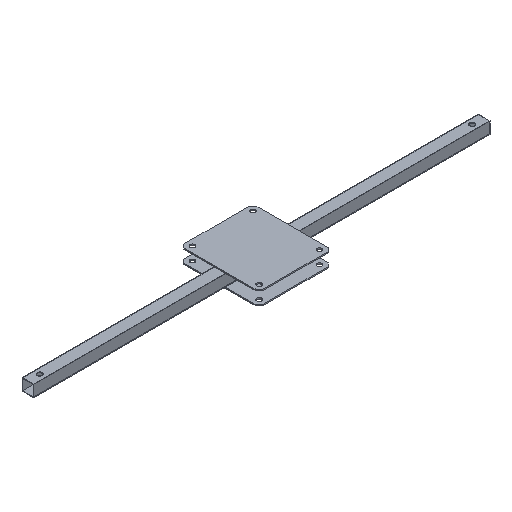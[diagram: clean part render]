
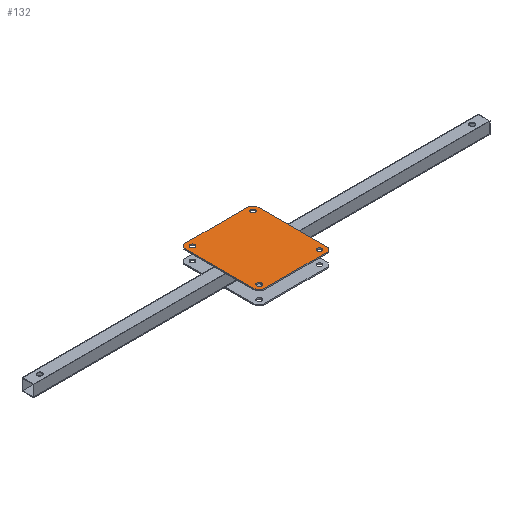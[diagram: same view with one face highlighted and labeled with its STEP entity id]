
A CAD part, isometric view. The second image highlights one B-rep face of the part: STEP entity #132.
In plain terms, the highlighted planar face has unit normal (0, 0, 1).
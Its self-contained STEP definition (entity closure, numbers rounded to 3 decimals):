
#80=CIRCLE('',#857,6.);
#81=CIRCLE('',#858,6.);
#82=CIRCLE('',#859,6.);
#83=CIRCLE('',#860,6.);
#132=ADVANCED_FACE('',(#212,#213,#214,#215,#216),#170,.T.);
#170=PLANE('',#861);
#212=FACE_BOUND('',#278,.T.);
#213=FACE_BOUND('',#279,.T.);
#214=FACE_BOUND('',#280,.T.);
#215=FACE_BOUND('',#281,.T.);
#216=FACE_BOUND('',#282,.T.);
#278=EDGE_LOOP('',(#400));
#279=EDGE_LOOP('',(#401,#402,#403,#404,#405,#406,#407,#408));
#280=EDGE_LOOP('',(#409));
#281=EDGE_LOOP('',(#410));
#282=EDGE_LOOP('',(#411));
#400=ORIENTED_EDGE('',*,*,#632,.F.);
#401=ORIENTED_EDGE('',*,*,#626,.T.);
#402=ORIENTED_EDGE('',*,*,#633,.T.);
#403=ORIENTED_EDGE('',*,*,#628,.T.);
#404=ORIENTED_EDGE('',*,*,#634,.T.);
#405=ORIENTED_EDGE('',*,*,#635,.T.);
#406=ORIENTED_EDGE('',*,*,#636,.T.);
#407=ORIENTED_EDGE('',*,*,#637,.T.);
#408=ORIENTED_EDGE('',*,*,#638,.T.);
#409=ORIENTED_EDGE('',*,*,#639,.F.);
#410=ORIENTED_EDGE('',*,*,#640,.F.);
#411=ORIENTED_EDGE('',*,*,#641,.F.);
#546=VERTEX_POINT('',#1180);
#547=VERTEX_POINT('',#1182);
#548=VERTEX_POINT('',#1186);
#549=VERTEX_POINT('',#1187);
#552=VERTEX_POINT('',#1195);
#553=VERTEX_POINT('',#1198);
#554=VERTEX_POINT('',#1200);
#555=VERTEX_POINT('',#1202);
#556=VERTEX_POINT('',#1204);
#557=VERTEX_POINT('',#1207);
#558=VERTEX_POINT('',#1209);
#559=VERTEX_POINT('',#1211);
#626=EDGE_CURVE('',#547,#546,#714,.T.);
#628=EDGE_CURVE('',#548,#549,#716,.T.);
#632=EDGE_CURVE('',#552,#552,#80,.T.);
#633=EDGE_CURVE('',#546,#548,#720,.T.);
#634=EDGE_CURVE('',#549,#553,#721,.T.);
#635=EDGE_CURVE('',#553,#554,#722,.T.);
#636=EDGE_CURVE('',#554,#555,#723,.T.);
#637=EDGE_CURVE('',#555,#556,#724,.T.);
#638=EDGE_CURVE('',#556,#547,#725,.T.);
#639=EDGE_CURVE('',#557,#557,#81,.T.);
#640=EDGE_CURVE('',#558,#558,#82,.T.);
#641=EDGE_CURVE('',#559,#559,#83,.T.);
#714=LINE('',#1181,#786);
#716=LINE('',#1185,#788);
#720=LINE('',#1196,#792);
#721=LINE('',#1197,#793);
#722=LINE('',#1199,#794);
#723=LINE('',#1201,#795);
#724=LINE('',#1203,#796);
#725=LINE('',#1205,#797);
#786=VECTOR('',#971,1.);
#788=VECTOR('',#975,1.);
#792=VECTOR('',#983,1.);
#793=VECTOR('',#984,1.);
#794=VECTOR('',#985,1.);
#795=VECTOR('',#986,1.);
#796=VECTOR('',#987,1.);
#797=VECTOR('',#988,1.);
#857=AXIS2_PLACEMENT_3D('',#1194,#981,#982);
#858=AXIS2_PLACEMENT_3D('',#1206,#989,#990);
#859=AXIS2_PLACEMENT_3D('',#1208,#991,#992);
#860=AXIS2_PLACEMENT_3D('',#1210,#993,#994);
#861=AXIS2_PLACEMENT_3D('',#1212,#995,#996);
#971=DIRECTION('',(0.,1.,0.));
#975=DIRECTION('',(-1.,0.,0.));
#981=DIRECTION('',(0.,0.,1.));
#982=DIRECTION('',(1.,0.,0.));
#983=DIRECTION('',(-0.707,0.707,0.));
#984=DIRECTION('',(-0.707,-0.707,0.));
#985=DIRECTION('',(0.,-1.,0.));
#986=DIRECTION('',(0.707,-0.707,0.));
#987=DIRECTION('',(1.,0.,0.));
#988=DIRECTION('',(0.707,0.707,0.));
#989=DIRECTION('',(0.,0.,1.));
#990=DIRECTION('',(1.,0.,0.));
#991=DIRECTION('',(0.,0.,1.));
#992=DIRECTION('',(-1.,0.,0.));
#993=DIRECTION('',(0.,0.,1.));
#994=DIRECTION('',(-1.,0.,0.));
#995=DIRECTION('',(0.,0.,1.));
#996=DIRECTION('',(1.,0.,0.));
#1180=CARTESIAN_POINT('',(91.139,91.155,3.));
#1181=CARTESIAN_POINT('',(91.139,0.,3.));
#1182=CARTESIAN_POINT('',(91.139,-91.155,3.));
#1185=CARTESIAN_POINT('',(91.139,99.155,3.));
#1186=CARTESIAN_POINT('',(83.139,99.155,3.));
#1187=CARTESIAN_POINT('',(-83.139,99.155,3.));
#1194=CARTESIAN_POINT('',(76.139,84.155,3.));
#1195=CARTESIAN_POINT('',(82.139,84.155,3.));
#1196=CARTESIAN_POINT('',(91.147,91.147,3.));
#1197=CARTESIAN_POINT('',(-91.147,91.147,3.));
#1198=CARTESIAN_POINT('',(-91.139,91.155,3.));
#1199=CARTESIAN_POINT('',(-91.139,0.,3.));
#1200=CARTESIAN_POINT('',(-91.139,-91.155,3.));
#1201=CARTESIAN_POINT('',(-91.147,-91.147,3.));
#1202=CARTESIAN_POINT('',(-83.139,-99.155,3.));
#1203=CARTESIAN_POINT('',(91.139,-99.155,3.));
#1204=CARTESIAN_POINT('',(83.139,-99.155,3.));
#1205=CARTESIAN_POINT('',(91.147,-91.147,3.));
#1206=CARTESIAN_POINT('',(76.139,-84.155,3.));
#1207=CARTESIAN_POINT('',(82.139,-84.155,3.));
#1208=CARTESIAN_POINT('',(-76.139,84.155,3.));
#1209=CARTESIAN_POINT('',(-82.139,84.155,3.));
#1210=CARTESIAN_POINT('',(-76.139,-84.155,3.));
#1211=CARTESIAN_POINT('',(-82.139,-84.155,3.));
#1212=CARTESIAN_POINT('',(0.,0.,3.));
